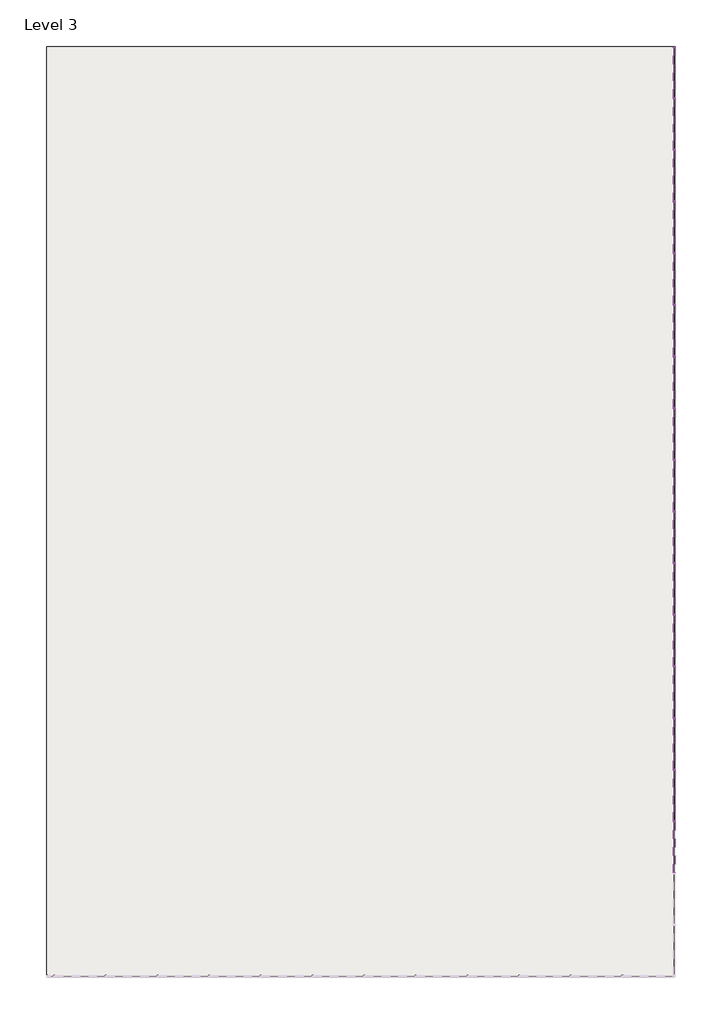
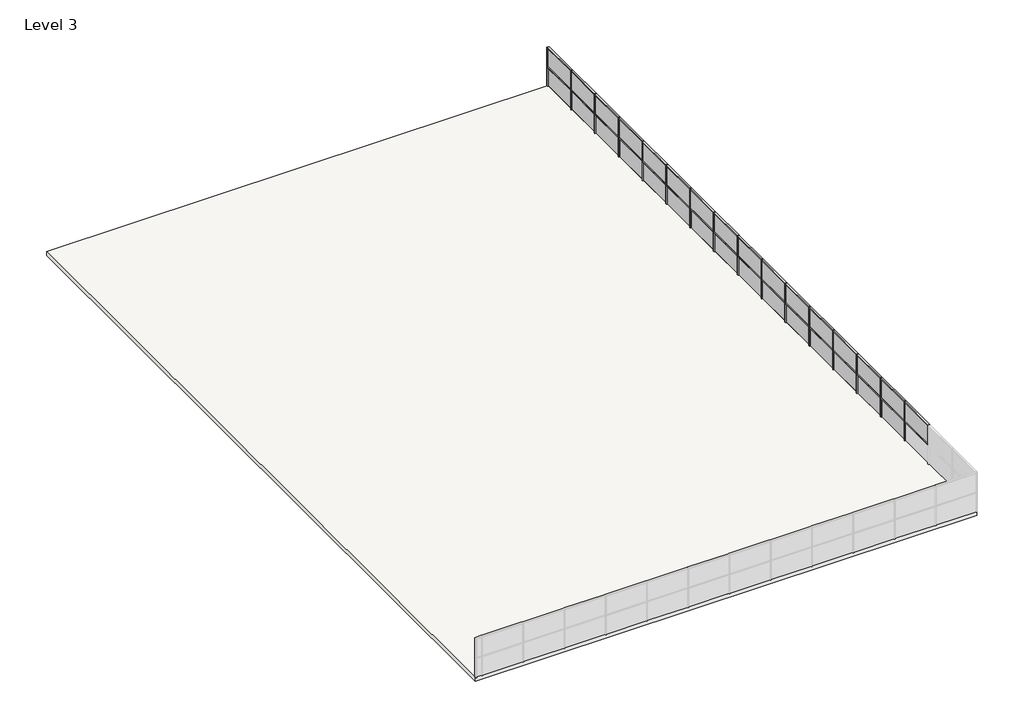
# One storey, part 2 of 2: 64 members, 31 plates, 1 slab.
"""IFC4 building model written with IfcOpenShell, lengths in millimetres."""

import ifcopenshell
import ifcopenshell.guid

model = None  # the IFC model being written
_history = None  # IfcOwnerHistory: only IFC2X3 demands one
_inside = {}  # id of a spatial element -> (the spatial element, [elements in it])
_under = {}  # id of a project, library or spatial element -> (it, [spatial elements below it])
_declared = {}  # id of a project -> (the project, [libraries it declares])
_typed = {}  # id of a type object -> (the type object, [elements of that type])
_made_of = {}  # id of a material, layer set ... -> (it, [elements and type objects made of it])


def new_model(schema):
    """Start an empty IFC model of exactly this schema.

    Asked for "IFC4X3", IfcOpenShell would pick the latest addendum, in which some entities
    have other attributes; the version numbers below select the first issue.
    IFC2X3 requires an IfcOwnerHistory on every rooted entity: one is made here for all.
    """
    global model, _history
    if schema == "IFC4X3":
        model = ifcopenshell.file(schema_version=(4, 3, 0, 0))
    else:
        model = ifcopenshell.file(schema=schema)
    _inside.clear()
    _under.clear()
    _declared.clear()
    _typed.clear()
    _made_of.clear()
    _history = None
    if model.schema == "IFC2X3":
        org = make("IfcOrganization", Name="unknown")
        user = make(
            "IfcPersonAndOrganization",
            ThePerson=make("IfcPerson", FamilyName="unknown"),
            TheOrganization=org,
        )
        app = make(
            "IfcApplication",
            ApplicationDeveloper=org,
            Version="unknown",
            ApplicationFullName="unknown",
            ApplicationIdentifier="unknown",
        )
        _history = make(
            "IfcOwnerHistory",
            OwningUser=user,
            OwningApplication=app,
            ChangeAction="ADDED",
            CreationDate=0,
        )
    return model


def make(cls, **values):
    """One entity of the class cls with the attributes given. An attribute that is None is left unset."""
    return model.create_entity(
        cls, **{name: value for name, value in values.items() if value is not None}
    )


def rooted(cls, **values):
    """An entity with a GlobalId (a new one), such as an element, a storey or a relation."""
    return make(cls, GlobalId=ifcopenshell.guid.new(), OwnerHistory=_history, **values)


def si_unit(unit_type, name, prefix=None):
    """IfcSIUnit, for example si_unit("LENGTHUNIT", "METRE", prefix="MILLI")."""
    return make("IfcSIUnit", UnitType=unit_type, Prefix=prefix, Name=name)


def assignment(units):
    """IfcUnitAssignment: the units of a project."""
    return None if units is None else make("IfcUnitAssignment", Units=units)


def point(xyz):
    """IfcCartesianPoint."""
    return None if xyz is None else make("IfcCartesianPoint", Coordinates=xyz)


def direction(xyz):
    """IfcDirection."""
    return None if xyz is None else make("IfcDirection", DirectionRatios=xyz)


def frame(location, z_axis=None, x_axis=None):
    """IfcAxis2Placement3D, a coordinate frame: its origin and axes. An axis left out is left unset."""
    return make(
        "IfcAxis2Placement3D",
        Location=point(location),
        Axis=direction(z_axis),
        RefDirection=direction(x_axis),
    )


def origin():
    """The frame at (0, 0, 0) with its axes left unset."""
    return frame((0.0, 0.0, 0.0))


def origin_with_axes():
    """The frame at (0, 0, 0) with the z axis (0, 0, 1) and the x axis (1, 0, 0) written out."""
    return frame((0.0, 0.0, 0.0), z_axis=(0.0, 0.0, 1.0), x_axis=(1.0, 0.0, 0.0))


def place(relative_to, where):
    """IfcLocalPlacement: puts the frame where relative to a parent placement (None: the world)."""
    return make(
        "IfcLocalPlacement", PlacementRelTo=relative_to, RelativePlacement=where
    )


def context(
    kind, dimensions, precision=None, world=None, true_north=None, identifier=None
):
    """IfcGeometricRepresentationContext, for example the 3D "Model" context."""
    return make(
        "IfcGeometricRepresentationContext",
        ContextIdentifier=identifier,
        ContextType=kind,
        CoordinateSpaceDimension=dimensions,
        Precision=precision,
        WorldCoordinateSystem=world,
        TrueNorth=true_north,
    )


def project(units=None, contexts=None):
    """IfcProject with its units and contexts."""
    return rooted(
        "IfcProject",
        Name="project",
        RepresentationContexts=contexts,
        UnitsInContext=assignment(units),
    )


def spatial(cls, under=None, at=None, **own):
    """A site, building, storey or space (cls), placed at a placement, below another one or the project."""
    s = rooted(cls, ObjectPlacement=at, **own)
    if under is not None:
        _under.setdefault(under.id(), (under, []))[1].append(s)
    return s


def polyline(points):
    """IfcPolyline through the points."""
    return make("IfcPolyline", Points=[point(p) for p in points])


def outline(outer, holes=None, kind="AREA"):
    """IfcArbitraryClosedProfileDef: a profile drawn as a closed curve; with holes, ...WithVoids."""
    if holes is None:
        return make("IfcArbitraryClosedProfileDef", ProfileType=kind, OuterCurve=outer)
    return make(
        "IfcArbitraryProfileDefWithVoids",
        ProfileType=kind,
        OuterCurve=outer,
        InnerCurves=holes,
    )


def extrude(swept, where, along, depth):
    """IfcExtrudedAreaSolid: the profile swept, set in the frame where, extruded along a direction by depth."""
    return make(
        "IfcExtrudedAreaSolid",
        SweptArea=swept,
        Position=where,
        ExtrudedDirection=direction(along),
        Depth=depth,
    )


def shape(context_of_items, identifier, shape_type, items):
    """IfcShapeRepresentation: the items that make up one representation, for example the "Body"."""
    return make(
        "IfcShapeRepresentation",
        ContextOfItems=context_of_items,
        RepresentationIdentifier=identifier,
        RepresentationType=shape_type,
        Items=items,
    )


def source(mapping_origin, context_of_items, identifier, shape_type, items):
    """IfcRepresentationMap: a shape defined once, which mapped items show again and again."""
    return make(
        "IfcRepresentationMap",
        MappingOrigin=mapping_origin,
        MappedRepresentation=shape(context_of_items, identifier, shape_type, items),
    )


def transform(
    local_origin,
    x_axis=None,
    y_axis=None,
    z_axis=None,
    scale=None,
    scale2=None,
    scale3=None,
    uniform=True,
):
    """IfcCartesianTransformationOperator3D, or its non-uniform kind. x_axis, y_axis, z_axis: its Axis1, 2, 3."""
    if uniform:
        return make(
            "IfcCartesianTransformationOperator3D",
            Axis1=direction(x_axis),
            Axis2=direction(y_axis),
            LocalOrigin=point(local_origin),
            Scale=scale,
            Axis3=direction(z_axis),
        )
    return make(
        "IfcCartesianTransformationOperator3DnonUniform",
        Axis1=direction(x_axis),
        Axis2=direction(y_axis),
        LocalOrigin=point(local_origin),
        Scale=scale,
        Axis3=direction(z_axis),
        Scale2=scale2,
        Scale3=scale3,
    )


def mapped(mapping_source, mapping_target):
    """IfcMappedItem: shows the shape of a source again, moved by a transform."""
    return make(
        "IfcMappedItem", MappingSource=mapping_source, MappingTarget=mapping_target
    )


def made_of(thing, what):
    """Note that an element or type object is made of a material, layer set ...; save() writes the relation."""
    if what is not None:
        _made_of.setdefault(what.id(), (what, []))[1].append(thing)
    return thing


def element(
    cls,
    number,
    at=None,
    inside=None,
    cuts=None,
    type_object=None,
    material=None,
    context=None,
    identifier="Body",
    shape_type=None,
    held_by="IfcProductDefinitionShape",
    body=None,
    shapes=None,
    **own,
):
    """One element of the class cls, such as IfcWall. Its Tag is "e" and its number.

    at: its placement. inside: the storey or other place that contains it. cuts: it is an
    opening in that element (IfcRelVoidsElement). A single representation is given by context,
    identifier, shape_type and body (its items); several are given by shapes. held_by: the class
    of the entity that holds the representations. save() writes the other relations.
    """
    e = rooted(cls, Tag="e%d" % number, ObjectPlacement=at, **own)
    if body is not None:
        shapes = [shape(context, identifier, shape_type, body)]
    if shapes is not None:
        e.Representation = make(held_by, Representations=shapes)
    if inside is not None:
        _inside.setdefault(inside.id(), (inside, []))[1].append(e)
    if cuts is not None:
        rooted(
            "IfcRelVoidsElement", RelatingBuildingElement=cuts, RelatedOpeningElement=e
        )
    if type_object is not None:
        _typed.setdefault(type_object.id(), (type_object, []))[1].append(e)
    return made_of(e, material)


def aggregate(whole, parts):
    """IfcRelAggregates: a whole, such as a stair, and the parts it consists of."""
    return rooted("IfcRelAggregates", RelatingObject=whole, RelatedObjects=parts)


def save(model, path):
    """Write the relations noted so far, then the file.

    IfcRelAggregates (storeys below a building ...), IfcRelContainedInSpatialStructure (elements
    in a storey), IfcRelDefinesByType, IfcRelAssociatesMaterial and IfcRelDeclares: one each for
    every whole, place, type object, material and project.
    """
    for whole, parts in _under.values():
        aggregate(whole, parts)
    for where, things in _inside.values():
        rooted(
            "IfcRelContainedInSpatialStructure",
            RelatedElements=things,
            RelatingStructure=where,
        )
    for kind, things in _typed.values():
        rooted("IfcRelDefinesByType", RelatedObjects=things, RelatingType=kind)
    for what, things in _made_of.values():
        rooted("IfcRelAssociatesMaterial", RelatedObjects=things, RelatingMaterial=what)
    for by, libraries in _declared.values():
        rooted("IfcRelDeclares", RelatingContext=by, RelatedDefinitions=libraries)
    model.write(path)


def member_8cef0660(model_context):
    return source(origin(), model_context, "Body", "SweptSolid", [
        extrude(outline(polyline([(31.75, 63.5), (31.75, -63.5), (-31.75, -63.5), (-31.75, 63.5), (31.75, 63.5)])), frame((0.0, 0.0, -2984.5), z_axis=(0.0, 0.0, 1.0), x_axis=(1.0, 0.0, 0.0)), (0.0, 0.0, 1.0), 2984.5),
    ])


def member_c65d5026(model_context):
    return source(origin(), model_context, "Body", "SweptSolid", [
        extrude(outline(polyline([(31.75, 63.5), (31.75, -63.5), (-31.75, -63.5), (-31.75, 63.5), (31.75, 63.5)])), frame((0.0, 0.0, -2952.75), z_axis=(0.0, 0.0, 1.0), x_axis=(1.0, 0.0, 0.0)), (0.0, 0.0, 1.0), 2952.75),
    ])


def member_82905deb(model_context):
    return source(origin(), model_context, "Body", "SweptSolid", [
        extrude(outline(polyline([(31.75, 63.5), (31.75, -63.5), (-31.75, -63.5), (-31.75, 63.5), (31.75, 63.5)])), frame((0.0, 0.0, -1524.0), z_axis=(0.0, 0.0, 1.0), x_axis=(1.0, 0.0, 0.0)), (0.0, 0.0, 1.0), 1524.0),
    ])


def member_4491d118(model_context):
    return source(origin(), model_context, "Body", "SweptSolid", [
        extrude(outline(polyline([(0.0, 63.5), (0.0, -63.5), (-63.5, -63.5), (-63.5, 63.5), (0.0, 63.5)])), frame((0.0, 0.0, -1524.0), z_axis=(0.0, 0.0, 1.0), x_axis=(1.0, 0.0, 0.0)), (0.0, 0.0, 1.0), 1524.0),
    ])


def system_panel_glazed_88acb840(model_context):
    return source(origin(), model_context, "Body", "SweptSolid", [
        extrude(outline(polyline([(1476.375, 19.05), (-1476.375, 19.05), (-1476.375, 44.45), (1476.375, 44.45), (1476.375, 19.05)])), origin_with_axes(), (0.0, 0.0, 1.0), 1460.5),
    ])


def system_panel_glazed_2a6c68b7(model_context):
    return source(origin(), model_context, "Body", "SweptSolid", [
        extrude(outline(polyline([(1492.25, 19.05), (-1492.25, 19.05), (-1492.25, 44.45), (1492.25, 44.45), (1492.25, 19.05)])), origin_with_axes(), (0.0, 0.0, 1.0), 1460.5),
    ])


def system_panel_solid_02c927c3(model_context):
    return source(origin(), model_context, "Body", "SweptSolid", [
        extrude(outline(polyline([(1476.375, -19.05), (-1476.375, -19.05), (-1476.375, 44.45), (1476.375, 44.45), (1476.375, -19.05)])), origin_with_axes(), (0.0, 0.0, 1.0), 1460.5),
    ])


def system_panel_solid_4f3844da(model_context):
    return source(origin(), model_context, "Body", "SweptSolid", [
        extrude(outline(polyline([(1492.25, -19.05), (-1492.25, -19.05), (-1492.25, 44.45), (1492.25, 44.45), (1492.25, -19.05)])), origin_with_axes(), (0.0, 0.0, 1.0), 1460.5),
    ])


model = new_model("IFC4")

# Units and contexts
model_context = context("Model", 3, world=origin())
ifc_project = project(units=[si_unit("LENGTHUNIT", "METRE", prefix="MILLI")], contexts=[model_context])

# Site, building, storey
site = spatial("IfcSite", under=ifc_project)
building = spatial("IfcBuilding", under=site)
storey = spatial("IfcBuildingStorey", under=building, Name="Level 3", Elevation=6096.0)

# Members
placement = place(None, origin())
member_shape = member_8cef0660(model_context)
element("IfcMember", 1, ObjectType="Rectangular Mullion : 2.5\" x 5\" rectangular", at=placement, inside=storey, context=model_context, shape_type="MappedRepresentation", body=[
    mapped(member_shape, transform((-7003.8511466, -33649.3111797, 9144.0), x_axis=(0.0, 0.0, 1.0), y_axis=(1.0, 0.0, 0.0), z_axis=(0.0, 1.0, 0.0))),
])
element("IfcMember", 2, ObjectType="Rectangular Mullion : 2.5\" x 5\" rectangular", at=placement, inside=storey, context=model_context, shape_type="MappedRepresentation", body=[
    mapped(member_shape, transform((-7003.8511466, -30601.3111797, 9144.0), x_axis=(0.0, 0.0, 1.0), y_axis=(1.0, 0.0, 0.0), z_axis=(0.0, 1.0, 0.0))),
])
element("IfcMember", 3, ObjectType="Rectangular Mullion : 2.5\" x 5\" rectangular", at=placement, inside=storey, context=model_context, shape_type="MappedRepresentation", body=[
    mapped(member_shape, transform((-7003.8511466, -27553.3111797, 9144.0), x_axis=(0.0, 0.0, 1.0), y_axis=(1.0, 0.0, 0.0), z_axis=(0.0, 1.0, 0.0))),
])
element("IfcMember", 4, ObjectType="Rectangular Mullion : 2.5\" x 5\" rectangular", at=placement, inside=storey, context=model_context, shape_type="MappedRepresentation", body=[
    mapped(member_shape, transform((-7003.8511466, -24505.3111797, 9144.0), x_axis=(0.0, 0.0, 1.0), y_axis=(1.0, 0.0, 0.0), z_axis=(0.0, 1.0, 0.0))),
])
element("IfcMember", 5, ObjectType="Rectangular Mullion : 2.5\" x 5\" rectangular", at=placement, inside=storey, context=model_context, shape_type="MappedRepresentation", body=[
    mapped(member_shape, transform((-7003.8511466, -21457.3111797, 9144.0), x_axis=(0.0, 0.0, 1.0), y_axis=(1.0, 0.0, 0.0), z_axis=(0.0, 1.0, 0.0))),
])
element("IfcMember", 6, ObjectType="Rectangular Mullion : 2.5\" x 5\" rectangular", at=placement, inside=storey, context=model_context, shape_type="MappedRepresentation", body=[
    mapped(member_shape, transform((-7003.8511466, -18409.3111797, 9144.0), x_axis=(0.0, 0.0, 1.0), y_axis=(1.0, 0.0, 0.0), z_axis=(0.0, 1.0, 0.0))),
])
element("IfcMember", 7, ObjectType="Rectangular Mullion : 2.5\" x 5\" rectangular", at=placement, inside=storey, context=model_context, shape_type="MappedRepresentation", body=[
    mapped(member_shape, transform((-7003.8511466, -15361.3111797, 9144.0), x_axis=(0.0, 0.0, 1.0), y_axis=(1.0, 0.0, 0.0), z_axis=(0.0, 1.0, 0.0))),
])
element("IfcMember", 8, ObjectType="Rectangular Mullion : 2.5\" x 5\" rectangular", at=placement, inside=storey, context=model_context, shape_type="MappedRepresentation", body=[
    mapped(member_shape, transform((-7003.8511466, -12313.3111797, 9144.0), x_axis=(0.0, 0.0, 1.0), y_axis=(1.0, 0.0, 0.0), z_axis=(0.0, 1.0, 0.0))),
])
element("IfcMember", 9, ObjectType="Rectangular Mullion : 2.5\" x 5\" rectangular", at=placement, inside=storey, context=model_context, shape_type="MappedRepresentation", body=[
    mapped(member_shape, transform((-7003.8511466, -9265.3111797, 9144.0), x_axis=(0.0, 0.0, 1.0), y_axis=(1.0, 0.0, 0.0), z_axis=(0.0, 1.0, 0.0))),
])
element("IfcMember", 10, ObjectType="Rectangular Mullion : 2.5\" x 5\" rectangular", at=placement, inside=storey, context=model_context, shape_type="MappedRepresentation", body=[
    mapped(member_shape, transform((-7003.8511466, -6217.3111797, 9144.0), x_axis=(0.0, 0.0, 1.0), y_axis=(1.0, 0.0, 0.0), z_axis=(0.0, 1.0, 0.0))),
])
element("IfcMember", 11, ObjectType="Rectangular Mullion : 2.5\" x 5\" rectangular", at=placement, inside=storey, context=model_context, shape_type="MappedRepresentation", body=[
    mapped(member_shape, transform((-7003.8511466, -3169.3111797, 9144.0), x_axis=(0.0, 0.0, 1.0), y_axis=(1.0, 0.0, 0.0), z_axis=(0.0, 1.0, 0.0))),
])
element("IfcMember", 12, ObjectType="Rectangular Mullion : 2.5\" x 5\" rectangular", at=placement, inside=storey, context=model_context, shape_type="MappedRepresentation", body=[
    mapped(member_shape, transform((-7003.8511466, -121.3111797, 9144.0), x_axis=(0.0, 0.0, 1.0), y_axis=(1.0, 0.0, 0.0), z_axis=(0.0, 1.0, 0.0))),
])
element("IfcMember", 13, ObjectType="Rectangular Mullion : 2.5\" x 5\" rectangular", at=placement, inside=storey, context=model_context, shape_type="MappedRepresentation", body=[
    mapped(member_shape, transform((-7003.8511466, 2926.6888203, 9144.0), x_axis=(0.0, 0.0, 1.0), y_axis=(1.0, 0.0, 0.0), z_axis=(0.0, 1.0, 0.0))),
])
element("IfcMember", 14, ObjectType="Rectangular Mullion : 2.5\" x 5\" rectangular", at=placement, inside=storey, context=model_context, shape_type="MappedRepresentation", body=[
    mapped(member_shape, transform((-7003.8511466, 5974.6888203, 9144.0), x_axis=(0.0, 0.0, 1.0), y_axis=(1.0, 0.0, 0.0), z_axis=(0.0, 1.0, 0.0))),
])
element("IfcMember", 15, ObjectType="Rectangular Mullion : 2.5\" x 5\" rectangular", at=placement, inside=storey, context=model_context, shape_type="MappedRepresentation", body=[
    mapped(member_shape, transform((-7003.8511466, 9022.6888203, 9144.0), x_axis=(0.0, 0.0, 1.0), y_axis=(1.0, 0.0, 0.0), z_axis=(0.0, 1.0, 0.0))),
])
element("IfcMember", 16, ObjectType="Rectangular Mullion : 2.5\" x 5\" rectangular", at=placement, inside=storey, context=model_context, shape_type="MappedRepresentation", body=[
    mapped(member_shape, transform((-7003.8511466, -33649.3111797, 7620.0), x_axis=(0.0, 0.0, 1.0), y_axis=(1.0, 0.0, 0.0), z_axis=(0.0, 1.0, 0.0))),
])
element("IfcMember", 17, ObjectType="Rectangular Mullion : 2.5\" x 5\" rectangular", at=placement, inside=storey, context=model_context, shape_type="MappedRepresentation", body=[
    mapped(member_shape, transform((-7003.8511466, -30601.3111797, 7620.0), x_axis=(0.0, 0.0, 1.0), y_axis=(1.0, 0.0, 0.0), z_axis=(0.0, 1.0, 0.0))),
])
element("IfcMember", 18, ObjectType="Rectangular Mullion : 2.5\" x 5\" rectangular", at=placement, inside=storey, context=model_context, shape_type="MappedRepresentation", body=[
    mapped(member_shape, transform((-7003.8511466, -27553.3111797, 7620.0), x_axis=(0.0, 0.0, 1.0), y_axis=(1.0, 0.0, 0.0), z_axis=(0.0, 1.0, 0.0))),
])
element("IfcMember", 19, ObjectType="Rectangular Mullion : 2.5\" x 5\" rectangular", at=placement, inside=storey, context=model_context, shape_type="MappedRepresentation", body=[
    mapped(member_shape, transform((-7003.8511466, -24505.3111797, 7620.0), x_axis=(0.0, 0.0, 1.0), y_axis=(1.0, 0.0, 0.0), z_axis=(0.0, 1.0, 0.0))),
])
element("IfcMember", 20, ObjectType="Rectangular Mullion : 2.5\" x 5\" rectangular", at=placement, inside=storey, context=model_context, shape_type="MappedRepresentation", body=[
    mapped(member_shape, transform((-7003.8511466, -21457.3111797, 7620.0), x_axis=(0.0, 0.0, 1.0), y_axis=(1.0, 0.0, 0.0), z_axis=(0.0, 1.0, 0.0))),
])
element("IfcMember", 21, ObjectType="Rectangular Mullion : 2.5\" x 5\" rectangular", at=placement, inside=storey, context=model_context, shape_type="MappedRepresentation", body=[
    mapped(member_shape, transform((-7003.8511466, -18409.3111797, 7620.0), x_axis=(0.0, 0.0, 1.0), y_axis=(1.0, 0.0, 0.0), z_axis=(0.0, 1.0, 0.0))),
])
element("IfcMember", 22, ObjectType="Rectangular Mullion : 2.5\" x 5\" rectangular", at=placement, inside=storey, context=model_context, shape_type="MappedRepresentation", body=[
    mapped(member_shape, transform((-7003.8511466, -15361.3111797, 7620.0), x_axis=(0.0, 0.0, 1.0), y_axis=(1.0, 0.0, 0.0), z_axis=(0.0, 1.0, 0.0))),
])
element("IfcMember", 23, ObjectType="Rectangular Mullion : 2.5\" x 5\" rectangular", at=placement, inside=storey, context=model_context, shape_type="MappedRepresentation", body=[
    mapped(member_shape, transform((-7003.8511466, -12313.3111797, 7620.0), x_axis=(0.0, 0.0, 1.0), y_axis=(1.0, 0.0, 0.0), z_axis=(0.0, 1.0, 0.0))),
])
element("IfcMember", 24, ObjectType="Rectangular Mullion : 2.5\" x 5\" rectangular", at=placement, inside=storey, context=model_context, shape_type="MappedRepresentation", body=[
    mapped(member_shape, transform((-7003.8511466, -9265.3111797, 7620.0), x_axis=(0.0, 0.0, 1.0), y_axis=(1.0, 0.0, 0.0), z_axis=(0.0, 1.0, 0.0))),
])
element("IfcMember", 25, ObjectType="Rectangular Mullion : 2.5\" x 5\" rectangular", at=placement, inside=storey, context=model_context, shape_type="MappedRepresentation", body=[
    mapped(member_shape, transform((-7003.8511466, -6217.3111797, 7620.0), x_axis=(0.0, 0.0, 1.0), y_axis=(1.0, 0.0, 0.0), z_axis=(0.0, 1.0, 0.0))),
])
element("IfcMember", 26, ObjectType="Rectangular Mullion : 2.5\" x 5\" rectangular", at=placement, inside=storey, context=model_context, shape_type="MappedRepresentation", body=[
    mapped(member_shape, transform((-7003.8511466, -3169.3111797, 7620.0), x_axis=(0.0, 0.0, 1.0), y_axis=(1.0, 0.0, 0.0), z_axis=(0.0, 1.0, 0.0))),
])
element("IfcMember", 27, ObjectType="Rectangular Mullion : 2.5\" x 5\" rectangular", at=placement, inside=storey, context=model_context, shape_type="MappedRepresentation", body=[
    mapped(member_shape, transform((-7003.8511466, -121.3111797, 7620.0), x_axis=(0.0, 0.0, 1.0), y_axis=(1.0, 0.0, 0.0), z_axis=(0.0, 1.0, 0.0))),
])
element("IfcMember", 28, ObjectType="Rectangular Mullion : 2.5\" x 5\" rectangular", at=placement, inside=storey, context=model_context, shape_type="MappedRepresentation", body=[
    mapped(member_shape, transform((-7003.8511466, 2926.6888203, 7620.0), x_axis=(0.0, 0.0, 1.0), y_axis=(1.0, 0.0, 0.0), z_axis=(0.0, 1.0, 0.0))),
])
element("IfcMember", 29, ObjectType="Rectangular Mullion : 2.5\" x 5\" rectangular", at=placement, inside=storey, context=model_context, shape_type="MappedRepresentation", body=[
    mapped(member_shape, transform((-7003.8511466, 5974.6888203, 7620.0), x_axis=(0.0, 0.0, 1.0), y_axis=(1.0, 0.0, 0.0), z_axis=(0.0, 1.0, 0.0))),
])
element("IfcMember", 30, ObjectType="Rectangular Mullion : 2.5\" x 5\" rectangular", at=placement, inside=storey, context=model_context, shape_type="MappedRepresentation", body=[
    mapped(member_shape, transform((-7003.8511466, 9022.6888203, 7620.0), x_axis=(0.0, 0.0, 1.0), y_axis=(1.0, 0.0, 0.0), z_axis=(0.0, 1.0, 0.0))),
])
member_2_shape = member_c65d5026(model_context)
element("IfcMember", 31, ObjectType="Rectangular Mullion : 2.5\" x 5\" rectangular", at=placement, inside=storey, context=model_context, shape_type="MappedRepresentation", body=[
    mapped(member_2_shape, transform((-7003.8511466, 12038.9388203, 9144.0), x_axis=(0.0, 0.0, 1.0), y_axis=(1.0, 0.0, 0.0), z_axis=(0.0, 1.0, 0.0))),
])
element("IfcMember", 32, ObjectType="Rectangular Mullion : 2.5\" x 5\" rectangular", at=placement, inside=storey, context=model_context, shape_type="MappedRepresentation", body=[
    mapped(member_2_shape, transform((-7003.8511466, 12038.9388203, 7620.0), x_axis=(0.0, 0.0, 1.0), y_axis=(1.0, 0.0, 0.0), z_axis=(0.0, 1.0, 0.0))),
])
member_3_shape = member_82905deb(model_context)
element("IfcMember", 33, ObjectType="Rectangular Mullion : 2.5\" x 5\" rectangular", at=placement, inside=storey, context=model_context, shape_type="MappedRepresentation", body=[
    mapped(member_3_shape, transform((-7003.8511466, -15329.5611797, 9144.0), x_axis=(0.0, -1.0, 0.0), y_axis=(1.0, 0.0, 0.0), z_axis=(0.0, 0.0, 1.0))),
])
element("IfcMember", 34, ObjectType="Rectangular Mullion : 2.5\" x 5\" rectangular", at=placement, inside=storey, context=model_context, shape_type="MappedRepresentation", body=[
    mapped(member_3_shape, transform((-7003.8511466, -15329.5611797, 7620.0), x_axis=(0.0, -1.0, 0.0), y_axis=(1.0, 0.0, 0.0), z_axis=(0.0, 0.0, 1.0))),
])
element("IfcMember", 35, ObjectType="Rectangular Mullion : 2.5\" x 5\" rectangular", at=placement, inside=storey, context=model_context, shape_type="MappedRepresentation", body=[
    mapped(member_3_shape, transform((-7003.8511466, -12281.5611797, 9144.0), x_axis=(0.0, -1.0, 0.0), y_axis=(1.0, 0.0, 0.0), z_axis=(0.0, 0.0, 1.0))),
])
element("IfcMember", 36, ObjectType="Rectangular Mullion : 2.5\" x 5\" rectangular", at=placement, inside=storey, context=model_context, shape_type="MappedRepresentation", body=[
    mapped(member_3_shape, transform((-7003.8511466, -12281.5611797, 7620.0), x_axis=(0.0, -1.0, 0.0), y_axis=(1.0, 0.0, 0.0), z_axis=(0.0, 0.0, 1.0))),
])
element("IfcMember", 37, ObjectType="Rectangular Mullion : 2.5\" x 5\" rectangular", at=placement, inside=storey, context=model_context, shape_type="MappedRepresentation", body=[
    mapped(member_3_shape, transform((-7003.8511466, -9233.5611797, 9144.0), x_axis=(0.0, -1.0, 0.0), y_axis=(1.0, 0.0, 0.0), z_axis=(0.0, 0.0, 1.0))),
])
element("IfcMember", 38, ObjectType="Rectangular Mullion : 2.5\" x 5\" rectangular", at=placement, inside=storey, context=model_context, shape_type="MappedRepresentation", body=[
    mapped(member_3_shape, transform((-7003.8511466, -9233.5611797, 7620.0), x_axis=(0.0, -1.0, 0.0), y_axis=(1.0, 0.0, 0.0), z_axis=(0.0, 0.0, 1.0))),
])
element("IfcMember", 39, ObjectType="Rectangular Mullion : 2.5\" x 5\" rectangular", at=placement, inside=storey, context=model_context, shape_type="MappedRepresentation", body=[
    mapped(member_3_shape, transform((-7003.8511466, -6185.5611797, 9144.0), x_axis=(0.0, -1.0, 0.0), y_axis=(1.0, 0.0, 0.0), z_axis=(0.0, 0.0, 1.0))),
])
element("IfcMember", 40, ObjectType="Rectangular Mullion : 2.5\" x 5\" rectangular", at=placement, inside=storey, context=model_context, shape_type="MappedRepresentation", body=[
    mapped(member_3_shape, transform((-7003.8511466, -6185.5611797, 7620.0), x_axis=(0.0, -1.0, 0.0), y_axis=(1.0, 0.0, 0.0), z_axis=(0.0, 0.0, 1.0))),
])
element("IfcMember", 41, ObjectType="Rectangular Mullion : 2.5\" x 5\" rectangular", at=placement, inside=storey, context=model_context, shape_type="MappedRepresentation", body=[
    mapped(member_3_shape, transform((-7003.8511466, -3137.5611797, 9144.0), x_axis=(0.0, -1.0, 0.0), y_axis=(1.0, 0.0, 0.0), z_axis=(0.0, 0.0, 1.0))),
])
element("IfcMember", 42, ObjectType="Rectangular Mullion : 2.5\" x 5\" rectangular", at=placement, inside=storey, context=model_context, shape_type="MappedRepresentation", body=[
    mapped(member_3_shape, transform((-7003.8511466, -3137.5611797, 7620.0), x_axis=(0.0, -1.0, 0.0), y_axis=(1.0, 0.0, 0.0), z_axis=(0.0, 0.0, 1.0))),
])
element("IfcMember", 43, ObjectType="Rectangular Mullion : 2.5\" x 5\" rectangular", at=placement, inside=storey, context=model_context, shape_type="MappedRepresentation", body=[
    mapped(member_3_shape, transform((-7003.8511466, -89.5611797, 9144.0), x_axis=(0.0, -1.0, 0.0), y_axis=(1.0, 0.0, 0.0), z_axis=(0.0, 0.0, 1.0))),
])
element("IfcMember", 44, ObjectType="Rectangular Mullion : 2.5\" x 5\" rectangular", at=placement, inside=storey, context=model_context, shape_type="MappedRepresentation", body=[
    mapped(member_3_shape, transform((-7003.8511466, -89.5611797, 7620.0), x_axis=(0.0, -1.0, 0.0), y_axis=(1.0, 0.0, 0.0), z_axis=(0.0, 0.0, 1.0))),
])
element("IfcMember", 45, ObjectType="Rectangular Mullion : 2.5\" x 5\" rectangular", at=placement, inside=storey, context=model_context, shape_type="MappedRepresentation", body=[
    mapped(member_3_shape, transform((-7003.8511466, 2958.4388203, 9144.0), x_axis=(0.0, -1.0, 0.0), y_axis=(1.0, 0.0, 0.0), z_axis=(0.0, 0.0, 1.0))),
])
element("IfcMember", 46, ObjectType="Rectangular Mullion : 2.5\" x 5\" rectangular", at=placement, inside=storey, context=model_context, shape_type="MappedRepresentation", body=[
    mapped(member_3_shape, transform((-7003.8511466, 2958.4388203, 7620.0), x_axis=(0.0, -1.0, 0.0), y_axis=(1.0, 0.0, 0.0), z_axis=(0.0, 0.0, 1.0))),
])
element("IfcMember", 47, ObjectType="Rectangular Mullion : 2.5\" x 5\" rectangular", at=placement, inside=storey, context=model_context, shape_type="MappedRepresentation", body=[
    mapped(member_3_shape, transform((-7003.8511466, 6006.4388203, 9144.0), x_axis=(0.0, -1.0, 0.0), y_axis=(1.0, 0.0, 0.0), z_axis=(0.0, 0.0, 1.0))),
])
element("IfcMember", 48, ObjectType="Rectangular Mullion : 2.5\" x 5\" rectangular", at=placement, inside=storey, context=model_context, shape_type="MappedRepresentation", body=[
    mapped(member_3_shape, transform((-7003.8511466, 6006.4388203, 7620.0), x_axis=(0.0, -1.0, 0.0), y_axis=(1.0, 0.0, 0.0), z_axis=(0.0, 0.0, 1.0))),
])
element("IfcMember", 49, ObjectType="Rectangular Mullion : 2.5\" x 5\" rectangular", at=placement, inside=storey, context=model_context, shape_type="MappedRepresentation", body=[
    mapped(member_3_shape, transform((-7003.8511466, 9054.4388203, 9144.0), x_axis=(0.0, -1.0, 0.0), y_axis=(1.0, 0.0, 0.0), z_axis=(0.0, 0.0, 1.0))),
])
element("IfcMember", 50, ObjectType="Rectangular Mullion : 2.5\" x 5\" rectangular", at=placement, inside=storey, context=model_context, shape_type="MappedRepresentation", body=[
    mapped(member_3_shape, transform((-7003.8511466, 9054.4388203, 7620.0), x_axis=(0.0, -1.0, 0.0), y_axis=(1.0, 0.0, 0.0), z_axis=(0.0, 0.0, 1.0))),
])
element("IfcMember", 51, ObjectType="Rectangular Mullion : 2.5\" x 5\" rectangular", at=placement, inside=storey, context=model_context, shape_type="MappedRepresentation", body=[
    mapped(member_3_shape, transform((-7003.8511466, -27521.5611797, 9144.0), x_axis=(0.0, -1.0, 0.0), y_axis=(1.0, 0.0, 0.0), z_axis=(0.0, 0.0, 1.0))),
])
element("IfcMember", 52, ObjectType="Rectangular Mullion : 2.5\" x 5\" rectangular", at=placement, inside=storey, context=model_context, shape_type="MappedRepresentation", body=[
    mapped(member_3_shape, transform((-7003.8511466, -27521.5611797, 7620.0), x_axis=(0.0, -1.0, 0.0), y_axis=(1.0, 0.0, 0.0), z_axis=(0.0, 0.0, 1.0))),
])
element("IfcMember", 53, ObjectType="Rectangular Mullion : 2.5\" x 5\" rectangular", at=placement, inside=storey, context=model_context, shape_type="MappedRepresentation", body=[
    mapped(member_3_shape, transform((-7003.8511466, -24473.5611797, 9144.0), x_axis=(0.0, -1.0, 0.0), y_axis=(1.0, 0.0, 0.0), z_axis=(0.0, 0.0, 1.0))),
])
element("IfcMember", 54, ObjectType="Rectangular Mullion : 2.5\" x 5\" rectangular", at=placement, inside=storey, context=model_context, shape_type="MappedRepresentation", body=[
    mapped(member_3_shape, transform((-7003.8511466, -24473.5611797, 7620.0), x_axis=(0.0, -1.0, 0.0), y_axis=(1.0, 0.0, 0.0), z_axis=(0.0, 0.0, 1.0))),
])
element("IfcMember", 55, ObjectType="Rectangular Mullion : 2.5\" x 5\" rectangular", at=placement, inside=storey, context=model_context, shape_type="MappedRepresentation", body=[
    mapped(member_3_shape, transform((-7003.8511466, -21425.5611797, 9144.0), x_axis=(0.0, -1.0, 0.0), y_axis=(1.0, 0.0, 0.0), z_axis=(0.0, 0.0, 1.0))),
])
element("IfcMember", 56, ObjectType="Rectangular Mullion : 2.5\" x 5\" rectangular", at=placement, inside=storey, context=model_context, shape_type="MappedRepresentation", body=[
    mapped(member_3_shape, transform((-7003.8511466, -21425.5611797, 7620.0), x_axis=(0.0, -1.0, 0.0), y_axis=(1.0, 0.0, 0.0), z_axis=(0.0, 0.0, 1.0))),
])
element("IfcMember", 57, ObjectType="Rectangular Mullion : 2.5\" x 5\" rectangular", at=placement, inside=storey, context=model_context, shape_type="MappedRepresentation", body=[
    mapped(member_3_shape, transform((-7003.8511466, -18377.5611797, 9144.0), x_axis=(0.0, -1.0, 0.0), y_axis=(1.0, 0.0, 0.0), z_axis=(0.0, 0.0, 1.0))),
])
element("IfcMember", 58, ObjectType="Rectangular Mullion : 2.5\" x 5\" rectangular", at=placement, inside=storey, context=model_context, shape_type="MappedRepresentation", body=[
    mapped(member_3_shape, transform((-7003.8511466, -18377.5611797, 7620.0), x_axis=(0.0, -1.0, 0.0), y_axis=(1.0, 0.0, 0.0), z_axis=(0.0, 0.0, 1.0))),
])
element("IfcMember", 59, ObjectType="Rectangular Mullion : 2.5\" x 5\" rectangular", at=placement, inside=storey, context=model_context, shape_type="MappedRepresentation", body=[
    mapped(member_3_shape, transform((-7003.8511466, -33617.5611797, 9144.0), x_axis=(0.0, -1.0, 0.0), y_axis=(1.0, 0.0, 0.0), z_axis=(0.0, 0.0, 1.0))),
])
element("IfcMember", 60, ObjectType="Rectangular Mullion : 2.5\" x 5\" rectangular", at=placement, inside=storey, context=model_context, shape_type="MappedRepresentation", body=[
    mapped(member_3_shape, transform((-7003.8511466, -33617.5611797, 7620.0), x_axis=(0.0, -1.0, 0.0), y_axis=(1.0, 0.0, 0.0), z_axis=(0.0, 0.0, 1.0))),
])
element("IfcMember", 61, ObjectType="Rectangular Mullion : 2.5\" x 5\" rectangular", at=placement, inside=storey, context=model_context, shape_type="MappedRepresentation", body=[
    mapped(member_3_shape, transform((-7003.8511466, -30569.5611797, 9144.0), x_axis=(0.0, -1.0, 0.0), y_axis=(1.0, 0.0, 0.0), z_axis=(0.0, 0.0, 1.0))),
])
element("IfcMember", 62, ObjectType="Rectangular Mullion : 2.5\" x 5\" rectangular", at=placement, inside=storey, context=model_context, shape_type="MappedRepresentation", body=[
    mapped(member_3_shape, transform((-7003.8511466, -30569.5611797, 7620.0), x_axis=(0.0, -1.0, 0.0), y_axis=(1.0, 0.0, 0.0), z_axis=(0.0, 0.0, 1.0))),
])
member_4_shape = member_4491d118(model_context)
element("IfcMember", 63, ObjectType="Rectangular Mullion : 2.5\" x 5\" rectangular", at=placement, inside=storey, context=model_context, shape_type="MappedRepresentation", body=[
    mapped(member_4_shape, transform((-7003.8511466, 12102.4388203, 7620.0), x_axis=(0.0, 1.0, 0.0), y_axis=(1.0, 0.0, 0.0), z_axis=(0.0, 0.0, -1.0))),
])
element("IfcMember", 64, ObjectType="Rectangular Mullion : 2.5\" x 5\" rectangular", at=placement, inside=storey, context=model_context, shape_type="MappedRepresentation", body=[
    mapped(member_4_shape, transform((-7003.8511466, 12102.4388203, 6096.0), x_axis=(0.0, 1.0, 0.0), y_axis=(1.0, 0.0, 0.0), z_axis=(0.0, 0.0, -1.0))),
])

# Plates
system_panel_glazed_shape = system_panel_glazed_88acb840(model_context)
element("IfcPlate", 65, ObjectType="System Panel : Glazed", at=placement, inside=storey, context=model_context, shape_type="MappedRepresentation", body=[
    mapped(system_panel_glazed_shape, transform((-7003.8511466, 10562.5638203, 6127.75), x_axis=(0.0, -1.0, 0.0), y_axis=(1.0, 0.0, 0.0), z_axis=(0.0, 0.0, 1.0))),
])
system_panel_glazed_2_shape = system_panel_glazed_2a6c68b7(model_context)
element("IfcPlate", 66, ObjectType="System Panel : Glazed", at=placement, inside=storey, context=model_context, shape_type="MappedRepresentation", body=[
    mapped(system_panel_glazed_2_shape, transform((-7003.8511466, 7530.4388203, 6127.75), x_axis=(0.0, -1.0, 0.0), y_axis=(1.0, 0.0, 0.0), z_axis=(0.0, 0.0, 1.0))),
])
element("IfcPlate", 67, ObjectType="System Panel : Glazed", at=placement, inside=storey, context=model_context, shape_type="MappedRepresentation", body=[
    mapped(system_panel_glazed_2_shape, transform((-7003.8511466, 4482.4388203, 6127.75), x_axis=(0.0, -1.0, 0.0), y_axis=(1.0, 0.0, 0.0), z_axis=(0.0, 0.0, 1.0))),
])
element("IfcPlate", 68, ObjectType="System Panel : Glazed", at=placement, inside=storey, context=model_context, shape_type="MappedRepresentation", body=[
    mapped(system_panel_glazed_2_shape, transform((-7003.8511466, 1434.4388203, 6127.75), x_axis=(0.0, -1.0, 0.0), y_axis=(1.0, 0.0, 0.0), z_axis=(0.0, 0.0, 1.0))),
])
element("IfcPlate", 69, ObjectType="System Panel : Glazed", at=placement, inside=storey, context=model_context, shape_type="MappedRepresentation", body=[
    mapped(system_panel_glazed_2_shape, transform((-7003.8511466, -1613.5611797, 6127.75), x_axis=(0.0, -1.0, 0.0), y_axis=(1.0, 0.0, 0.0), z_axis=(0.0, 0.0, 1.0))),
])
element("IfcPlate", 70, ObjectType="System Panel : Glazed", at=placement, inside=storey, context=model_context, shape_type="MappedRepresentation", body=[
    mapped(system_panel_glazed_2_shape, transform((-7003.8511466, -4661.5611797, 6127.75), x_axis=(0.0, -1.0, 0.0), y_axis=(1.0, 0.0, 0.0), z_axis=(0.0, 0.0, 1.0))),
])
element("IfcPlate", 71, ObjectType="System Panel : Glazed", at=placement, inside=storey, context=model_context, shape_type="MappedRepresentation", body=[
    mapped(system_panel_glazed_2_shape, transform((-7003.8511466, -7709.5611797, 6127.75), x_axis=(0.0, -1.0, 0.0), y_axis=(1.0, 0.0, 0.0), z_axis=(0.0, 0.0, 1.0))),
])
element("IfcPlate", 72, ObjectType="System Panel : Glazed", at=placement, inside=storey, context=model_context, shape_type="MappedRepresentation", body=[
    mapped(system_panel_glazed_2_shape, transform((-7003.8511466, -10757.5611797, 6127.75), x_axis=(0.0, -1.0, 0.0), y_axis=(1.0, 0.0, 0.0), z_axis=(0.0, 0.0, 1.0))),
])
element("IfcPlate", 73, ObjectType="System Panel : Glazed", at=placement, inside=storey, context=model_context, shape_type="MappedRepresentation", body=[
    mapped(system_panel_glazed_2_shape, transform((-7003.8511466, -13805.5611797, 6127.75), x_axis=(0.0, -1.0, 0.0), y_axis=(1.0, 0.0, 0.0), z_axis=(0.0, 0.0, 1.0))),
])
element("IfcPlate", 74, ObjectType="System Panel : Glazed", at=placement, inside=storey, context=model_context, shape_type="MappedRepresentation", body=[
    mapped(system_panel_glazed_2_shape, transform((-7003.8511466, -16853.5611797, 6127.75), x_axis=(0.0, -1.0, 0.0), y_axis=(1.0, 0.0, 0.0), z_axis=(0.0, 0.0, 1.0))),
])
element("IfcPlate", 75, ObjectType="System Panel : Glazed", at=placement, inside=storey, context=model_context, shape_type="MappedRepresentation", body=[
    mapped(system_panel_glazed_2_shape, transform((-7003.8511466, -19901.5611797, 6127.75), x_axis=(0.0, -1.0, 0.0), y_axis=(1.0, 0.0, 0.0), z_axis=(0.0, 0.0, 1.0))),
])
element("IfcPlate", 76, ObjectType="System Panel : Glazed", at=placement, inside=storey, context=model_context, shape_type="MappedRepresentation", body=[
    mapped(system_panel_glazed_2_shape, transform((-7003.8511466, -22949.5611797, 6127.75), x_axis=(0.0, -1.0, 0.0), y_axis=(1.0, 0.0, 0.0), z_axis=(0.0, 0.0, 1.0))),
])
element("IfcPlate", 77, ObjectType="System Panel : Glazed", at=placement, inside=storey, context=model_context, shape_type="MappedRepresentation", body=[
    mapped(system_panel_glazed_2_shape, transform((-7003.8511466, -25997.5611797, 6127.75), x_axis=(0.0, -1.0, 0.0), y_axis=(1.0, 0.0, 0.0), z_axis=(0.0, 0.0, 1.0))),
])
element("IfcPlate", 78, ObjectType="System Panel : Glazed", at=placement, inside=storey, context=model_context, shape_type="MappedRepresentation", body=[
    mapped(system_panel_glazed_2_shape, transform((-7003.8511466, -29045.5611797, 6127.75), x_axis=(0.0, -1.0, 0.0), y_axis=(1.0, 0.0, 0.0), z_axis=(0.0, 0.0, 1.0))),
])
element("IfcPlate", 79, ObjectType="System Panel : Glazed", at=placement, inside=storey, context=model_context, shape_type="MappedRepresentation", body=[
    mapped(system_panel_glazed_2_shape, transform((-7003.8511466, -32093.5611797, 6127.75), x_axis=(0.0, -1.0, 0.0), y_axis=(1.0, 0.0, 0.0), z_axis=(0.0, 0.0, 1.0))),
])
system_panel_solid_shape = system_panel_solid_02c927c3(model_context)
element("IfcPlate", 80, ObjectType="System Panel : Solid", at=placement, inside=storey, context=model_context, shape_type="MappedRepresentation", body=[
    mapped(system_panel_solid_shape, transform((-7003.8511466, 10562.5638203, 7651.75), x_axis=(0.0, -1.0, 0.0), y_axis=(1.0, 0.0, 0.0), z_axis=(0.0, 0.0, 1.0))),
])
system_panel_solid_2_shape = system_panel_solid_4f3844da(model_context)
element("IfcPlate", 81, ObjectType="System Panel : Solid", at=placement, inside=storey, context=model_context, shape_type="MappedRepresentation", body=[
    mapped(system_panel_solid_2_shape, transform((-7003.8511466, 7530.4388203, 7651.75), x_axis=(0.0, -1.0, 0.0), y_axis=(1.0, 0.0, 0.0), z_axis=(0.0, 0.0, 1.0))),
])
element("IfcPlate", 82, ObjectType="System Panel : Solid", at=placement, inside=storey, context=model_context, shape_type="MappedRepresentation", body=[
    mapped(system_panel_solid_2_shape, transform((-7003.8511466, 4482.4388203, 7651.75), x_axis=(0.0, -1.0, 0.0), y_axis=(1.0, 0.0, 0.0), z_axis=(0.0, 0.0, 1.0))),
])
element("IfcPlate", 83, ObjectType="System Panel : Solid", at=placement, inside=storey, context=model_context, shape_type="MappedRepresentation", body=[
    mapped(system_panel_solid_2_shape, transform((-7003.8511466, 1434.4388203, 7651.75), x_axis=(0.0, -1.0, 0.0), y_axis=(1.0, 0.0, 0.0), z_axis=(0.0, 0.0, 1.0))),
])
element("IfcPlate", 84, ObjectType="System Panel : Solid", at=placement, inside=storey, context=model_context, shape_type="MappedRepresentation", body=[
    mapped(system_panel_solid_2_shape, transform((-7003.8511466, -1613.5611797, 7651.75), x_axis=(0.0, -1.0, 0.0), y_axis=(1.0, 0.0, 0.0), z_axis=(0.0, 0.0, 1.0))),
])
element("IfcPlate", 85, ObjectType="System Panel : Solid", at=placement, inside=storey, context=model_context, shape_type="MappedRepresentation", body=[
    mapped(system_panel_solid_2_shape, transform((-7003.8511466, -4661.5611797, 7651.75), x_axis=(0.0, -1.0, 0.0), y_axis=(1.0, 0.0, 0.0), z_axis=(0.0, 0.0, 1.0))),
])
element("IfcPlate", 86, ObjectType="System Panel : Solid", at=placement, inside=storey, context=model_context, shape_type="MappedRepresentation", body=[
    mapped(system_panel_solid_2_shape, transform((-7003.8511466, -7709.5611797, 7651.75), x_axis=(0.0, -1.0, 0.0), y_axis=(1.0, 0.0, 0.0), z_axis=(0.0, 0.0, 1.0))),
])
element("IfcPlate", 87, ObjectType="System Panel : Solid", at=placement, inside=storey, context=model_context, shape_type="MappedRepresentation", body=[
    mapped(system_panel_solid_2_shape, transform((-7003.8511466, -10757.5611797, 7651.75), x_axis=(0.0, -1.0, 0.0), y_axis=(1.0, 0.0, 0.0), z_axis=(0.0, 0.0, 1.0))),
])
element("IfcPlate", 88, ObjectType="System Panel : Solid", at=placement, inside=storey, context=model_context, shape_type="MappedRepresentation", body=[
    mapped(system_panel_solid_2_shape, transform((-7003.8511466, -13805.5611797, 7651.75), x_axis=(0.0, -1.0, 0.0), y_axis=(1.0, 0.0, 0.0), z_axis=(0.0, 0.0, 1.0))),
])
element("IfcPlate", 89, ObjectType="System Panel : Solid", at=placement, inside=storey, context=model_context, shape_type="MappedRepresentation", body=[
    mapped(system_panel_solid_2_shape, transform((-7003.8511466, -16853.5611797, 7651.75), x_axis=(0.0, -1.0, 0.0), y_axis=(1.0, 0.0, 0.0), z_axis=(0.0, 0.0, 1.0))),
])
element("IfcPlate", 90, ObjectType="System Panel : Solid", at=placement, inside=storey, context=model_context, shape_type="MappedRepresentation", body=[
    mapped(system_panel_solid_2_shape, transform((-7003.8511466, -19901.5611797, 7651.75), x_axis=(0.0, -1.0, 0.0), y_axis=(1.0, 0.0, 0.0), z_axis=(0.0, 0.0, 1.0))),
])
element("IfcPlate", 91, ObjectType="System Panel : Solid", at=placement, inside=storey, context=model_context, shape_type="MappedRepresentation", body=[
    mapped(system_panel_solid_2_shape, transform((-7003.8511466, -22949.5611797, 7651.75), x_axis=(0.0, -1.0, 0.0), y_axis=(1.0, 0.0, 0.0), z_axis=(0.0, 0.0, 1.0))),
])
element("IfcPlate", 92, ObjectType="System Panel : Solid", at=placement, inside=storey, context=model_context, shape_type="MappedRepresentation", body=[
    mapped(system_panel_solid_2_shape, transform((-7003.8511466, -25997.5611797, 7651.75), x_axis=(0.0, -1.0, 0.0), y_axis=(1.0, 0.0, 0.0), z_axis=(0.0, 0.0, 1.0))),
])
element("IfcPlate", 93, ObjectType="System Panel : Solid", at=placement, inside=storey, context=model_context, shape_type="MappedRepresentation", body=[
    mapped(system_panel_solid_2_shape, transform((-7003.8511466, -29045.5611797, 7651.75), x_axis=(0.0, -1.0, 0.0), y_axis=(1.0, 0.0, 0.0), z_axis=(0.0, 0.0, 1.0))),
])
element("IfcPlate", 94, ObjectType="System Panel : Solid", at=placement, inside=storey, context=model_context, shape_type="MappedRepresentation", body=[
    mapped(system_panel_solid_2_shape, transform((-7003.8511466, -32093.5611797, 7651.75), x_axis=(0.0, -1.0, 0.0), y_axis=(1.0, 0.0, 0.0), z_axis=(0.0, 0.0, 1.0))),
])
element("IfcPlate", 95, ObjectType="System Panel : Solid", at=placement, inside=storey, context=model_context, shape_type="MappedRepresentation", body=[
    mapped(system_panel_solid_2_shape, transform((-7003.8511466, -35141.5611797, 7651.75), x_axis=(0.0, -1.0, 0.0), y_axis=(1.0, 0.0, 0.0), z_axis=(0.0, 0.0, 1.0))),
])

# Slab
element("IfcSlab", 96, ObjectType="Generic - 12\"", at=placement, inside=storey, context=model_context, shape_type="SweptSolid", body=[
    extrude(outline(polyline([(-7003.8511466, 12102.4388203), (-7003.8511466, -42761.5611797), (-44037.0511466, -42761.5611797), (-44037.0511466, 12102.4388203), (-7003.8511466, 12102.4388203)])), frame((0.0, 0.0, 5791.2), z_axis=(0.0, 0.0, 1.0), x_axis=(1.0, 0.0, 0.0)), (0.0, 0.0, 1.0), 304.8),
])

save(model, "model.ifc")
